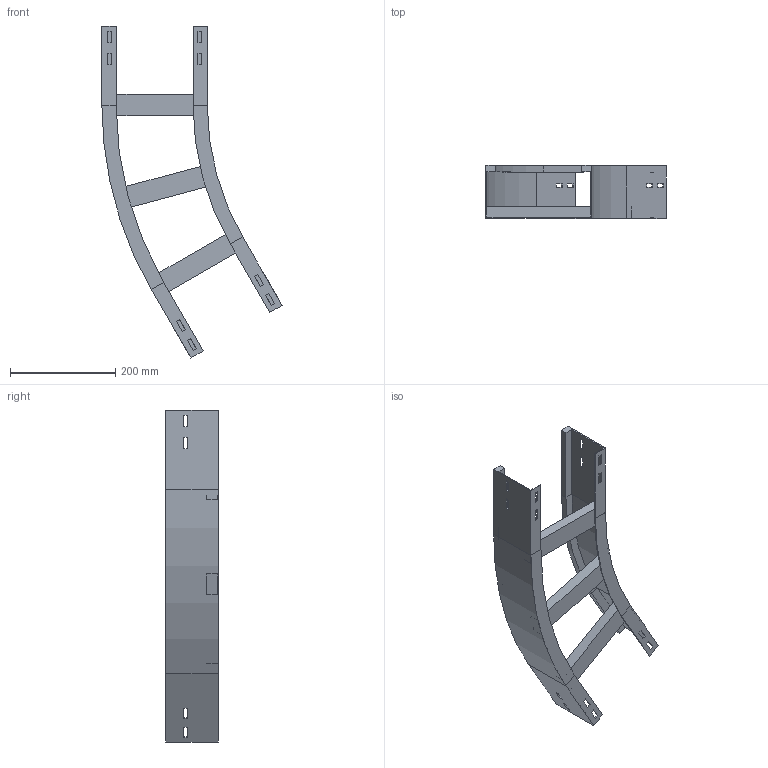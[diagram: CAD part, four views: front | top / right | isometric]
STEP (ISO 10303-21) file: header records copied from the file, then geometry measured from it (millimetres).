
FILE_DESCRIPTION (( 'STEP AP214' ), '1' );
FILE_NAME ('12B5D200.step', '2025-02-21T15:06:31', ( '' ), ( '' ), 'SwSTEP 2.0', 'SolidWorks 2023', '' );
FILE_SCHEMA (( 'AUTOMOTIVE_DESIGN' ));
Length unit declared in the file: millimetre
Products named in the file (4): A2_LONGH.INTERNO 30°_H100_R500; 12B5D200; TRAVERSINO_200; A2_LONGH.ESTERNO 30°_H100_R500+200
Assembly tree (5 placements, depth 2):
  12B5D200
    A2_LONGH.INTERNO 30°_H100_R500
    A2_LONGH.ESTERNO 30°_H100_R500+200
    TRAVERSINO_200  x3
Bounding box: 341.99 x 100 x 629.9 mm (x, y, z)
Volume: 1014268.8 mm3; surface area: 426003.1 mm2
Topology: 5 solids, 5 shells, 134 faces, 340 edges, 216 vertices
Faces by surface type: plane 126, cylinder 8
Entity records: 3821 total; most frequent: CARTESIAN_POINT 646, ORIENTED_EDGE 632, DIRECTION 592, EDGE_CURVE 316, LINE 300, VECTOR 300, VERTEX_POINT 200, EDGE_LOOP 154
